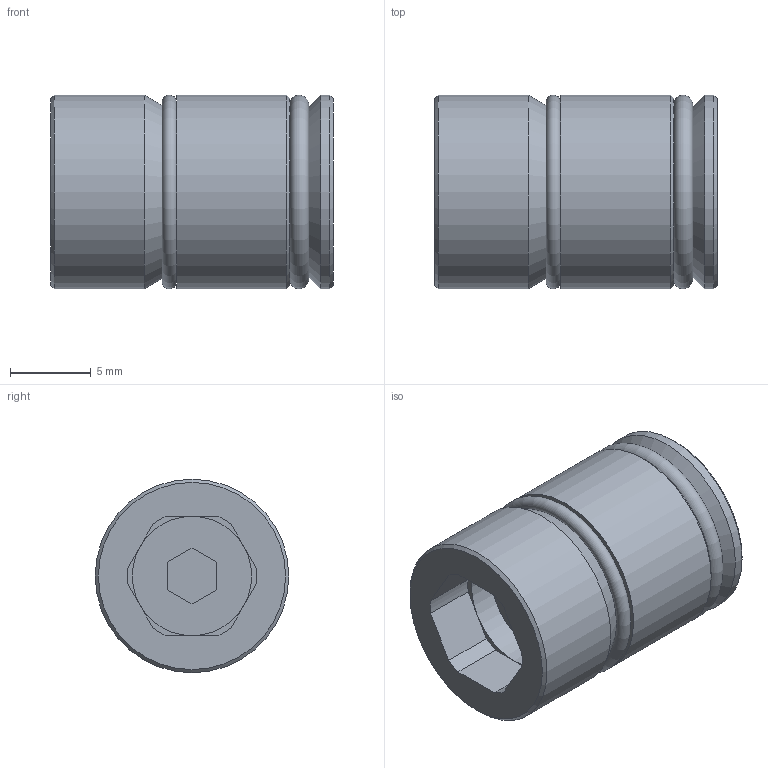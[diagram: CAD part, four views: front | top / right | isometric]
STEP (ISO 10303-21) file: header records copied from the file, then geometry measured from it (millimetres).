
FILE_DESCRIPTION( ( 'STEP AP214' ), '1' );
FILE_NAME( 'p:/temp/worker_226/temp/exporttempdir_6032_739_harsk/format_0/TRI-12.stp', '2021-02-05T19:27:53', ( 'License CC BY-ND 4.0' ), ( 'CADENAS' ), ' ', 'PARTsolutions', ' ' );
FILE_SCHEMA( ( 'AUTOMOTIVE_DESIGN { 1 0 10303 214 1 1 1 1 }' ) );
Length unit declared in the file: millimetre
Products named in the file (1): _TRI-12
Bounding box: 17.5 x 12 x 12 mm (x, y, z)
Volume: 1679.1 mm3; surface area: 1154.3 mm2
Topology: 1 solids, 1 shells, 41 faces, 91 edges, 56 vertices
Faces by surface type: plane 24, cylinder 10, cone 5, torus 2
Full cylindrical faces by diameter (mm): 7.4 x1, 12 x3
Entity records: 1422 total; most frequent: DIRECTION 196, CARTESIAN_POINT 180, ORIENTED_EDGE 160, EDGE_CURVE 80, AXIS2_PLACEMENT_3D 74, VERTEX_POINT 58, EDGE_LOOP 56, LINE 48
